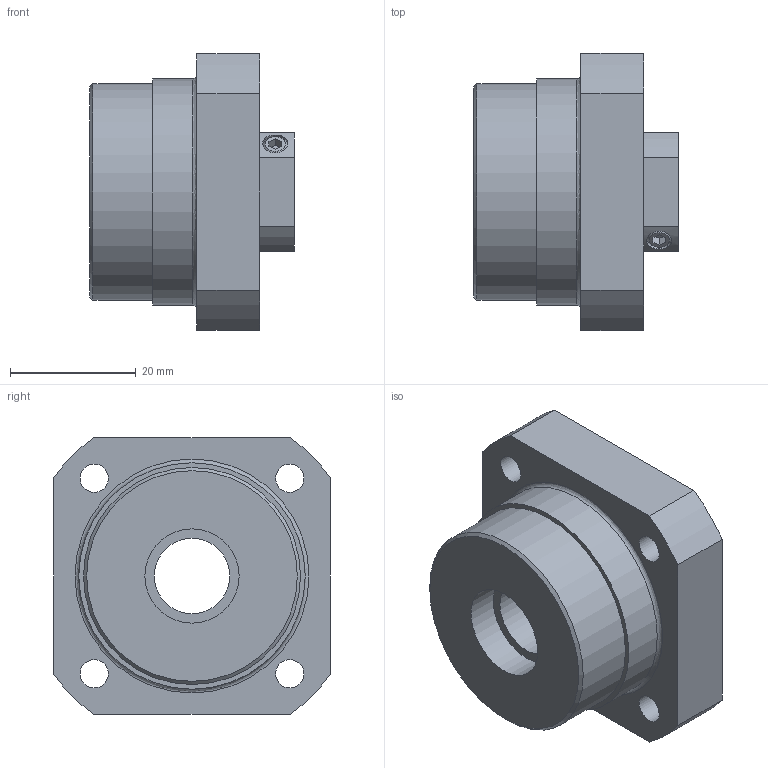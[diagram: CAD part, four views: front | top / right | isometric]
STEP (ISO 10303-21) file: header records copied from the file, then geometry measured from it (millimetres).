
FILE_DESCRIPTION((''),'2;1');
FILE_NAME('D:\製品 (図面)\カタログ用3D\ネジ関連\STEP形式\SUF\SUF12.stp','2010-06-02T14:48:43',('Tsuchiya'),(''),'Autodesk Inventor 10','Autodesk Inventor 10','');
FILE_SCHEMA(('AUTOMOTIVE_DESIGN { 1 0 10303 214 1 1 1 1 }'));
Length unit declared in the file: millimetre
Products named in the file (1): SUF12
Bounding box: 32.5 x 44 x 44 mm (x, y, z)
Volume: 31398.6 mm3; surface area: 9948.7 mm2
Topology: 1 solids, 1 shells, 144 faces, 345 edges, 228 vertices
Faces by surface type: plane 69, cylinder 56, bspline 13, torus 4, cone 2
Full cylindrical faces by diameter (mm): 4 x1, 8.4 x4, 8.6 x4, 12 x1, 15 x1, 16 x1, 17 x1, 23 x1, 34.5 x1, 36 x1
Entity records: 4303 total; most frequent: CARTESIAN_POINT 939, DIRECTION 710, ORIENTED_EDGE 628, EDGE_CURVE 314, AXIS2_PLACEMENT_3D 266, VERTEX_POINT 228, EDGE_LOOP 210, VECTOR 178
